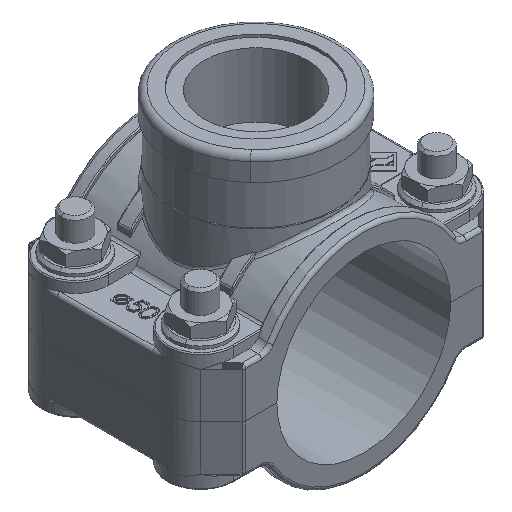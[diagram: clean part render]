
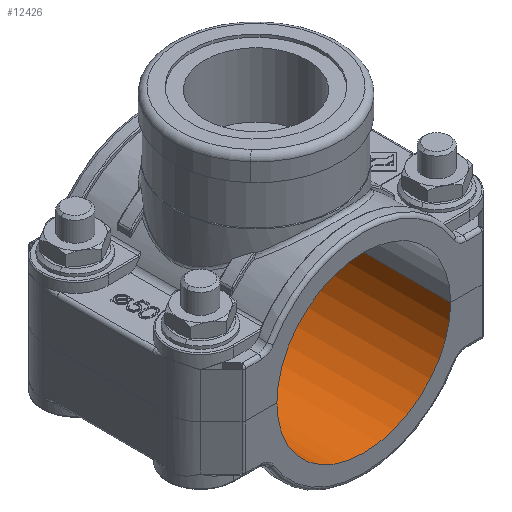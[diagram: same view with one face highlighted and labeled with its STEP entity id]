
A CAD part, isometric view. The second image highlights one B-rep face of the part: STEP entity #12426.
In plain terms, the highlighted cylindrical face has radius 25 mm (diameter 50 mm), a partial arc.
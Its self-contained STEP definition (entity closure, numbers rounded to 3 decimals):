
#2 = CARTESIAN_POINT ( 'NONE',  ( 25., -31., 0. ) ) ;
#384 = CARTESIAN_POINT ( 'NONE',  ( 25., -31., 0. ) ) ;
#864 = CARTESIAN_POINT ( 'NONE',  ( 0., -31., 0. ) ) ;
#2543 = CIRCLE ( 'NONE', #16422, 25. ) ;
#3990 = CARTESIAN_POINT ( 'NONE',  ( -25., -31., 0. ) ) ;
#4235 = ORIENTED_EDGE ( 'NONE', *, *, #19809, .F. ) ;
#4286 = VECTOR ( 'NONE', #11126, 1000. ) ;
#4666 = ORIENTED_EDGE ( 'NONE', *, *, #17801, .F. ) ;
#6464 = CARTESIAN_POINT ( 'NONE',  ( 0., 31., 0. ) ) ;
#7408 = CYLINDRICAL_SURFACE ( 'NONE', #18764, 25. ) ;
#11126 = DIRECTION ( 'NONE',  ( 0., 1., 0. ) ) ;
#11154 = VERTEX_POINT ( 'NONE', #41581 ) ;
#11371 = DIRECTION ( 'NONE',  ( -1., 0., 0. ) ) ;
#12426 = ADVANCED_FACE ( 'NONE', ( #33642 ), #7408, .F. ) ;
#12695 = CIRCLE ( 'NONE', #32601, 25. ) ;
#13098 = VERTEX_POINT ( 'NONE', #26565 ) ;
#14106 = DIRECTION ( 'NONE',  ( 0., 1., 0. ) ) ;
#16422 = AXIS2_PLACEMENT_3D ( 'NONE', #6464, #36174, #19642 ) ;
#17801 = EDGE_CURVE ( 'NONE', #40384, #13098, #40661, .T. ) ;
#18764 = AXIS2_PLACEMENT_3D ( 'NONE', #864, #14106, #23734 ) ;
#19642 = DIRECTION ( 'NONE',  ( -1., 0., 0. ) ) ;
#19809 = EDGE_CURVE ( 'NONE', #32698, #40384, #12695, .T. ) ;
#23734 = DIRECTION ( 'NONE',  ( -1., 0., 0. ) ) ;
#23896 = DIRECTION ( 'NONE',  ( 0., 1., 0. ) ) ;
#26297 = LINE ( 'NONE', #384, #40668 ) ;
#26565 = CARTESIAN_POINT ( 'NONE',  ( -25., 31., 0. ) ) ;
#27825 = ORIENTED_EDGE ( 'NONE', *, *, #31972, .T. ) ;
#30482 = EDGE_CURVE ( 'NONE', #11154, #13098, #2543, .T. ) ;
#30728 = CARTESIAN_POINT ( 'NONE',  ( -25., -31., 0. ) ) ;
#31972 = EDGE_CURVE ( 'NONE', #32698, #11154, #26297, .T. ) ;
#32601 = AXIS2_PLACEMENT_3D ( 'NONE', #33308, #40017, #11371 ) ;
#32698 = VERTEX_POINT ( 'NONE', #2 ) ;
#33308 = CARTESIAN_POINT ( 'NONE',  ( 0., -31., 0. ) ) ;
#33642 = FACE_OUTER_BOUND ( 'NONE', #34207, .T. ) ;
#34207 = EDGE_LOOP ( 'NONE', ( #41946, #4666, #4235, #27825 ) ) ;
#36174 = DIRECTION ( 'NONE',  ( 0., 1., 0. ) ) ;
#40017 = DIRECTION ( 'NONE',  ( 0., 1., 0. ) ) ;
#40384 = VERTEX_POINT ( 'NONE', #3990 ) ;
#40661 = LINE ( 'NONE', #30728, #4286 ) ;
#40668 = VECTOR ( 'NONE', #23896, 1000. ) ;
#41581 = CARTESIAN_POINT ( 'NONE',  ( 25., 31., 0. ) ) ;
#41946 = ORIENTED_EDGE ( 'NONE', *, *, #30482, .T. ) ;
